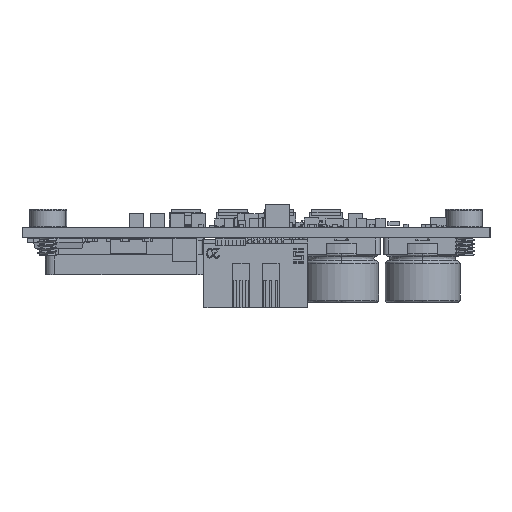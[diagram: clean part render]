
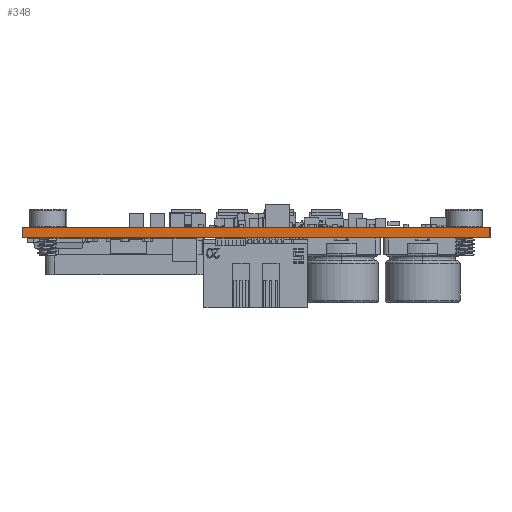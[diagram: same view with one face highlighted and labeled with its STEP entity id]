
A CAD part, left-side view. The second image highlights one B-rep face of the part: STEP entity #348.
In plain terms, the highlighted planar face has unit normal (-1, 0, 0).
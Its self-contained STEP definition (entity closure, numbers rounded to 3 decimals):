
#348 = ADVANCED_FACE('',(#349),#363,.T.);
#349 = FACE_BOUND('',#350,.T.);
#350 = EDGE_LOOP('',(#351,#386,#414,#442));
#351 = ORIENTED_EDGE('',*,*,#352,.T.);
#352 = EDGE_CURVE('',#353,#355,#357,.T.);
#353 = VERTEX_POINT('',#354);
#354 = CARTESIAN_POINT('',(0.,0.,0.));
#355 = VERTEX_POINT('',#356);
#356 = CARTESIAN_POINT('',(0.,0.,1.076));
#357 = SURFACE_CURVE('',#358,(#362,#374),.PCURVE_S1.);
#358 = LINE('',#359,#360);
#359 = CARTESIAN_POINT('',(0.,0.,0.));
#360 = VECTOR('',#361,1.);
#361 = DIRECTION('',(0.,0.,1.));
#362 = PCURVE('',#363,#368);
#363 = PLANE('',#364);
#364 = AXIS2_PLACEMENT_3D('',#365,#366,#367);
#365 = CARTESIAN_POINT('',(0.,0.,0.));
#366 = DIRECTION('',(-1.,0.,0.));
#367 = DIRECTION('',(0.,1.,0.));
#368 = DEFINITIONAL_REPRESENTATION('',(#369),#373);
#369 = LINE('',#370,#371);
#370 = CARTESIAN_POINT('',(0.,0.));
#371 = VECTOR('',#372,1.);
#372 = DIRECTION('',(0.,-1.));
#373 = ( GEOMETRIC_REPRESENTATION_CONTEXT(2) 
PARAMETRIC_REPRESENTATION_CONTEXT() REPRESENTATION_CONTEXT('2D SPACE',''
  ) );
#374 = PCURVE('',#375,#380);
#375 = PLANE('',#376);
#376 = AXIS2_PLACEMENT_3D('',#377,#378,#379);
#377 = CARTESIAN_POINT('',(80.,0.,0.));
#378 = DIRECTION('',(0.,-1.,0.));
#379 = DIRECTION('',(-1.,0.,0.));
#380 = DEFINITIONAL_REPRESENTATION('',(#381),#385);
#381 = LINE('',#382,#383);
#382 = CARTESIAN_POINT('',(80.,0.));
#383 = VECTOR('',#384,1.);
#384 = DIRECTION('',(0.,-1.));
#385 = ( GEOMETRIC_REPRESENTATION_CONTEXT(2) 
PARAMETRIC_REPRESENTATION_CONTEXT() REPRESENTATION_CONTEXT('2D SPACE',''
  ) );
#386 = ORIENTED_EDGE('',*,*,#387,.T.);
#387 = EDGE_CURVE('',#355,#388,#390,.T.);
#388 = VERTEX_POINT('',#389);
#389 = CARTESIAN_POINT('',(0.,50.,1.076));
#390 = SURFACE_CURVE('',#391,(#395,#402),.PCURVE_S1.);
#391 = LINE('',#392,#393);
#392 = CARTESIAN_POINT('',(0.,0.,1.076));
#393 = VECTOR('',#394,1.);
#394 = DIRECTION('',(0.,1.,0.));
#395 = PCURVE('',#363,#396);
#396 = DEFINITIONAL_REPRESENTATION('',(#397),#401);
#397 = LINE('',#398,#399);
#398 = CARTESIAN_POINT('',(0.,-1.076));
#399 = VECTOR('',#400,1.);
#400 = DIRECTION('',(1.,0.));
#401 = ( GEOMETRIC_REPRESENTATION_CONTEXT(2) 
PARAMETRIC_REPRESENTATION_CONTEXT() REPRESENTATION_CONTEXT('2D SPACE',''
  ) );
#402 = PCURVE('',#403,#408);
#403 = PLANE('',#404);
#404 = AXIS2_PLACEMENT_3D('',#405,#406,#407);
#405 = CARTESIAN_POINT('',(0.,0.,1.076));
#406 = DIRECTION('',(0.,0.,1.));
#407 = DIRECTION('',(1.,0.,0.));
#408 = DEFINITIONAL_REPRESENTATION('',(#409),#413);
#409 = LINE('',#410,#411);
#410 = CARTESIAN_POINT('',(0.,0.));
#411 = VECTOR('',#412,1.);
#412 = DIRECTION('',(0.,1.));
#413 = ( GEOMETRIC_REPRESENTATION_CONTEXT(2) 
PARAMETRIC_REPRESENTATION_CONTEXT() REPRESENTATION_CONTEXT('2D SPACE',''
  ) );
#414 = ORIENTED_EDGE('',*,*,#415,.F.);
#415 = EDGE_CURVE('',#416,#388,#418,.T.);
#416 = VERTEX_POINT('',#417);
#417 = CARTESIAN_POINT('',(0.,50.,0.));
#418 = SURFACE_CURVE('',#419,(#423,#430),.PCURVE_S1.);
#419 = LINE('',#420,#421);
#420 = CARTESIAN_POINT('',(0.,50.,0.));
#421 = VECTOR('',#422,1.);
#422 = DIRECTION('',(0.,0.,1.));
#423 = PCURVE('',#363,#424);
#424 = DEFINITIONAL_REPRESENTATION('',(#425),#429);
#425 = LINE('',#426,#427);
#426 = CARTESIAN_POINT('',(50.,0.));
#427 = VECTOR('',#428,1.);
#428 = DIRECTION('',(0.,-1.));
#429 = ( GEOMETRIC_REPRESENTATION_CONTEXT(2) 
PARAMETRIC_REPRESENTATION_CONTEXT() REPRESENTATION_CONTEXT('2D SPACE',''
  ) );
#430 = PCURVE('',#431,#436);
#431 = PLANE('',#432);
#432 = AXIS2_PLACEMENT_3D('',#433,#434,#435);
#433 = CARTESIAN_POINT('',(0.,50.,0.));
#434 = DIRECTION('',(0.,1.,0.));
#435 = DIRECTION('',(1.,0.,0.));
#436 = DEFINITIONAL_REPRESENTATION('',(#437),#441);
#437 = LINE('',#438,#439);
#438 = CARTESIAN_POINT('',(0.,0.));
#439 = VECTOR('',#440,1.);
#440 = DIRECTION('',(0.,-1.));
#441 = ( GEOMETRIC_REPRESENTATION_CONTEXT(2) 
PARAMETRIC_REPRESENTATION_CONTEXT() REPRESENTATION_CONTEXT('2D SPACE',''
  ) );
#442 = ORIENTED_EDGE('',*,*,#443,.F.);
#443 = EDGE_CURVE('',#353,#416,#444,.T.);
#444 = SURFACE_CURVE('',#445,(#449,#456),.PCURVE_S1.);
#445 = LINE('',#446,#447);
#446 = CARTESIAN_POINT('',(0.,0.,0.));
#447 = VECTOR('',#448,1.);
#448 = DIRECTION('',(0.,1.,0.));
#449 = PCURVE('',#363,#450);
#450 = DEFINITIONAL_REPRESENTATION('',(#451),#455);
#451 = LINE('',#452,#453);
#452 = CARTESIAN_POINT('',(0.,0.));
#453 = VECTOR('',#454,1.);
#454 = DIRECTION('',(1.,0.));
#455 = ( GEOMETRIC_REPRESENTATION_CONTEXT(2) 
PARAMETRIC_REPRESENTATION_CONTEXT() REPRESENTATION_CONTEXT('2D SPACE',''
  ) );
#456 = PCURVE('',#457,#462);
#457 = PLANE('',#458);
#458 = AXIS2_PLACEMENT_3D('',#459,#460,#461);
#459 = CARTESIAN_POINT('',(0.,0.,0.));
#460 = DIRECTION('',(0.,0.,1.));
#461 = DIRECTION('',(1.,0.,0.));
#462 = DEFINITIONAL_REPRESENTATION('',(#463),#467);
#463 = LINE('',#464,#465);
#464 = CARTESIAN_POINT('',(0.,0.));
#465 = VECTOR('',#466,1.);
#466 = DIRECTION('',(0.,1.));
#467 = ( GEOMETRIC_REPRESENTATION_CONTEXT(2) 
PARAMETRIC_REPRESENTATION_CONTEXT() REPRESENTATION_CONTEXT('2D SPACE',''
  ) );
